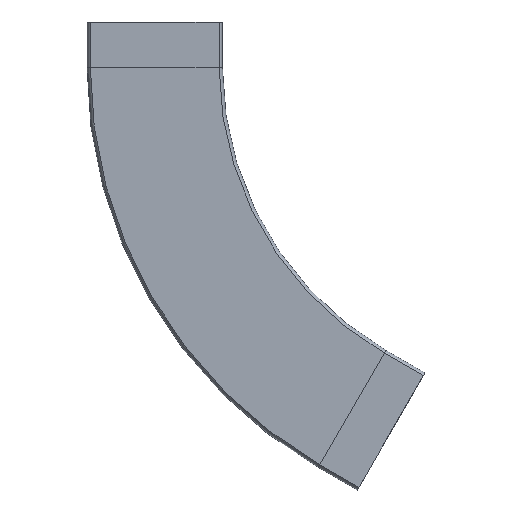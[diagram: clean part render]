
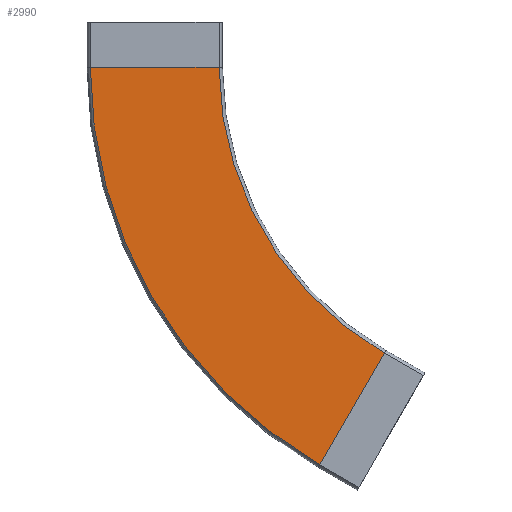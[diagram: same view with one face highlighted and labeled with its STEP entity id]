
A CAD part, front view. The second image highlights one B-rep face of the part: STEP entity #2990.
In plain terms, the highlighted planar face has unit normal (0, -1, 0).
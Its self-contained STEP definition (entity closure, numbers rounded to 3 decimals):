
#374 = PLANE ( 'NONE',  #5588 ) ;
#460 = EDGE_CURVE ( 'NONE', #3773, #3052, #4764, .T. ) ;
#499 = VERTEX_POINT ( 'NONE', #2425 ) ;
#605 = CARTESIAN_POINT ( 'NONE',  ( 0., -56.5, -40. ) ) ;
#1114 = DIRECTION ( 'NONE',  ( 0., 1., 0. ) ) ;
#1220 = CARTESIAN_POINT ( 'NONE',  ( 146.425, -56.5, -392.602 ) ) ;
#1286 = AXIS2_PLACEMENT_3D ( 'NONE', #3834, #1114, #4215 ) ;
#1311 = CARTESIAN_POINT ( 'NONE',  ( 203.575, -56.5, -293.616 ) ) ;
#1384 = EDGE_CURVE ( 'NONE', #499, #3052, #1934, .T. ) ;
#1525 = DIRECTION ( 'NONE',  ( 0., 1., 0. ) ) ;
#1527 = EDGE_LOOP ( 'NONE', ( #2369, #4968, #5226, #3233 ) ) ;
#1721 = FACE_OUTER_BOUND ( 'NONE', #1527, .T. ) ;
#1934 = LINE ( 'NONE', #605, #2975 ) ;
#2155 = DIRECTION ( 'NONE',  ( 0., 1., 0. ) ) ;
#2264 = AXIS2_PLACEMENT_3D ( 'NONE', #4119, #1525, #3277 ) ;
#2369 = ORIENTED_EDGE ( 'NONE', *, *, #1384, .T. ) ;
#2425 = CARTESIAN_POINT ( 'NONE',  ( 57.15, -56.5, -40. ) ) ;
#2975 = VECTOR ( 'NONE', #3669, 1000. ) ;
#2990 = ADVANCED_FACE ( 'NONE', ( #1721 ), #374, .F. ) ;
#3052 = VERTEX_POINT ( 'NONE', #3550 ) ;
#3233 = ORIENTED_EDGE ( 'NONE', *, *, #4572, .T. ) ;
#3268 = LINE ( 'NONE', #1311, #4573 ) ;
#3277 = DIRECTION ( 'NONE',  ( 0., 0., 1. ) ) ;
#3388 = CARTESIAN_POINT ( 'NONE',  ( 203.575, -56.5, -293.616 ) ) ;
#3550 = CARTESIAN_POINT ( 'NONE',  ( -57.15, -56.5, -40. ) ) ;
#3606 = EDGE_CURVE ( 'NONE', #3773, #5452, #3268, .T. ) ;
#3669 = DIRECTION ( 'NONE',  ( -1., 0., 0. ) ) ;
#3773 = VERTEX_POINT ( 'NONE', #1220 ) ;
#3834 = CARTESIAN_POINT ( 'NONE',  ( 350., -56.5, -40. ) ) ;
#3892 = DIRECTION ( 'NONE',  ( 0., 0., 1. ) ) ;
#4119 = CARTESIAN_POINT ( 'NONE',  ( 350., -56.5, -40. ) ) ;
#4215 = DIRECTION ( 'NONE',  ( 0., 0., 1. ) ) ;
#4308 = CARTESIAN_POINT ( 'NONE',  ( 203.575, -56.5, -293.616 ) ) ;
#4400 = DIRECTION ( 'NONE',  ( 0.5, 0., 0.866 ) ) ;
#4572 = EDGE_CURVE ( 'NONE', #5452, #499, #5333, .T. ) ;
#4573 = VECTOR ( 'NONE', #4400, 1000. ) ;
#4764 = CIRCLE ( 'NONE', #2264, 407.15 ) ;
#4968 = ORIENTED_EDGE ( 'NONE', *, *, #460, .F. ) ;
#5226 = ORIENTED_EDGE ( 'NONE', *, *, #3606, .T. ) ;
#5333 = CIRCLE ( 'NONE', #1286, 292.85 ) ;
#5452 = VERTEX_POINT ( 'NONE', #3388 ) ;
#5588 = AXIS2_PLACEMENT_3D ( 'NONE', #4308, #2155, #3892 ) ;
